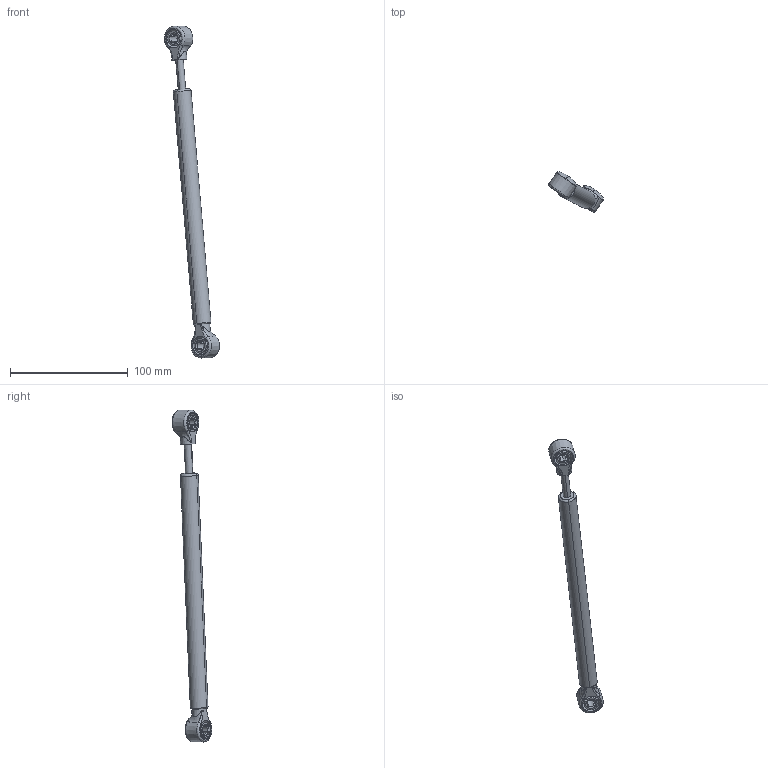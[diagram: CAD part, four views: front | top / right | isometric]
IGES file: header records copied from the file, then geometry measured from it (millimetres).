
Start section: SolidWorks IGES FILE using analytic representation for surfaces
Global section: file name: Y:\CONTENTCENTRAL\Gas Spring\cache\GADEFAU061420032296.igs; native system: SolidWorks 2003 by SolidWorks Corporation; preprocessor: Version 5.3; author: partstream; date: 030614.023729; units: inch
Bounding box: 46.6 x 33.71 x 281.42 mm (x, y, z)
Surface area: 21364.4 mm2 (no closed solid volume)
Topology: 0 solids, 0 shells, 103 faces, 1504 edges, 1500 vertices
Faces by surface type: bspline 63, revolution 40
